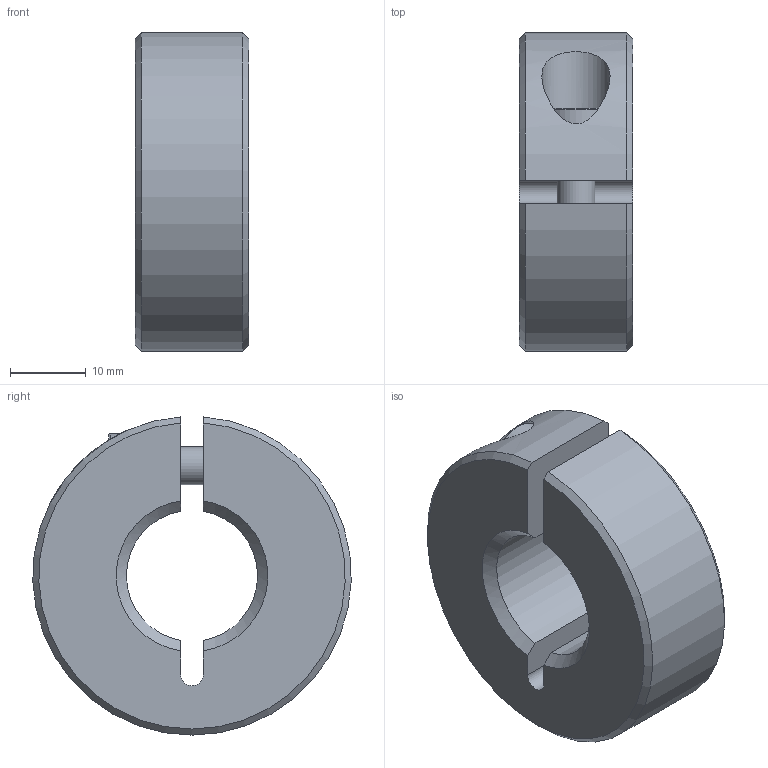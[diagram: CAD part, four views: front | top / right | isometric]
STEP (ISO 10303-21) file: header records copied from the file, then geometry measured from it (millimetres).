
FILE_DESCRIPTION( ( 'STEP AP203' ), '1' );
FILE_NAME( 'C:/Temp/Ganter_Step_05_03_2020/data/3_2/gn706_3/gn706_3_st/Threaded set collar GN 706.3-42-M20-ST.stp', '2020-03-13T05:33:35', ( 'License CC BY-ND 4.0' ), ( 'CADENAS' ), ' ', 'PARTsolutions', ' ' );
FILE_SCHEMA( ( 'CONFIG_CONTROL_DESIGN' ) );
Length unit declared in the file: millimetre
Products named in the file (1): _Threaded set collar GN 706.3-42-M20-ST
Bounding box: 15 x 41.97 x 41.95 mm (x, y, z)
Volume: 15905.7 mm3; surface area: 5882.5 mm2
Topology: 1 solids, 2 shells, 35 faces, 83 edges, 55 vertices
Faces by surface type: plane 17, cylinder 9, cone 8, torus 1
Full cylindrical faces by diameter (mm): 4.134 x1, 5 x1, 5.3 x1, 8.5 x1, 9 x1
Entity records: 1080 total; most frequent: CARTESIAN_POINT 270, DIRECTION 156, ORIENTED_EDGE 144, EDGE_CURVE 72, AXIS2_PLACEMENT_3D 61, VERTEX_POINT 53, EDGE_LOOP 48, FACE_OUTER_BOUND 41
